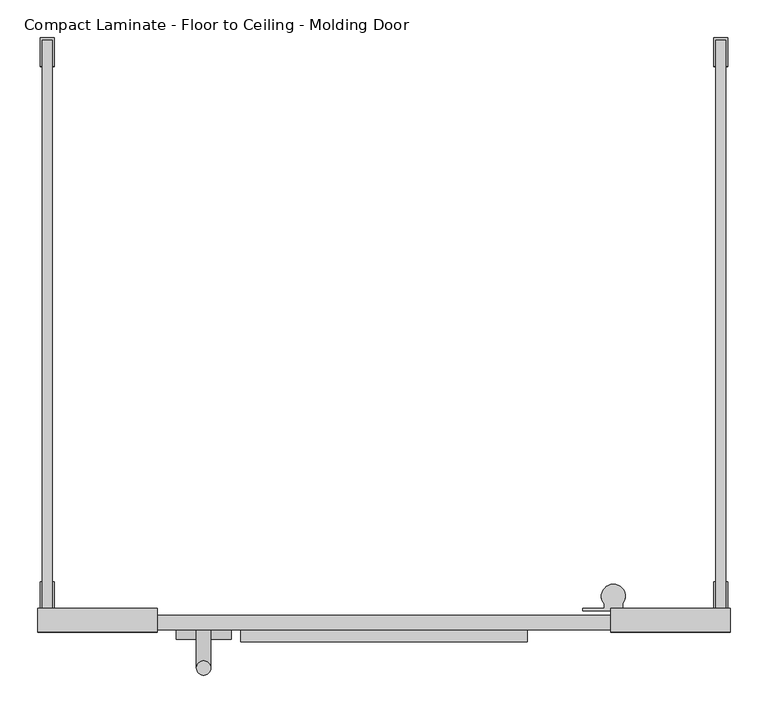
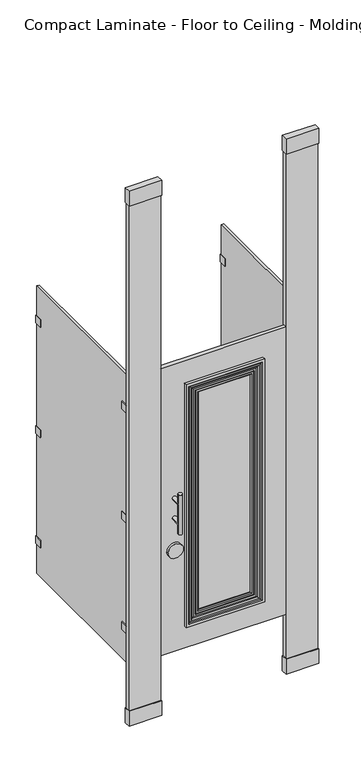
"""IFC4 building model written with IfcOpenShell, lengths in millimetres: proxy geometry, Toilet-Partition_Ironwood-Mfg_Compact-Laminate : Compact Laminate - Floor to Ceiling - Molding Door."""

from ifc_helpers import new_model, si_unit, point, frame, frame_2d, origin, origin_with_axes, place, context, project, spatial, polyline, circle_curve, ellipse_curve, trimmed, segment, composite_curve, outline, extrude, source, transform, mapped, element, save
from ifc_brep_helpers import plane_surface, cylinder_surface, revolved_surface, advanced_brep


def compact_laminate_floor_to_ceiling_molding_door_4631fa89(model_context):
    return source(origin(), model_context, "Body", "SolidModel", [
        extrude(outline(polyline([(542.925, -790.575), (542.925, -758.825), (701.675, -758.825), (701.675, -790.575), (542.925, -790.575)])), frame((0.0, 0.0, 2667.0), z_axis=(0.0, 0.0, 1.0), x_axis=(1.0, 0.0, 0.0)), (0.0, 0.0, 1.0), 76.1999999),
        extrude(outline(polyline([(701.675, -758.825), (701.675, -790.575), (542.925, -790.575), (542.925, -758.825), (701.675, -758.825)])), origin_with_axes(), (0.0, 0.0, 1.0), 76.2),
        extrude(outline(polyline([(698.5, -762.0), (698.5, -787.4), (546.1, -787.4), (546.1, -762.0), (698.5, -762.0)])), origin_with_axes(), (0.0, 0.0, 1.0), 2667.0),
        extrude(outline(polyline([(-60.325, -790.575), (-219.075, -790.575), (-219.075, -758.825), (-60.325, -758.825), (-60.325, -790.575)])), frame((0.0, 0.0, 2667.0), z_axis=(0.0, 0.0, 1.0), x_axis=(1.0, 0.0, 0.0)), (0.0, 0.0, 1.0), 76.1999999),
        extrude(outline(polyline([(-219.075, -758.825), (-60.325, -758.825), (-60.325, -790.575), (-219.075, -790.575), (-219.075, -758.825)])), origin_with_axes(), (0.0, 0.0, 1.0), 76.2),
        extrude(outline(polyline([(-215.9, -762.0), (-63.5, -762.0), (-63.5, -787.4), (-215.9, -787.4), (-215.9, -762.0)])), origin_with_axes(), (0.0, 0.0, 1.0), 2667.0),
        extrude(outline(polyline([(546.1, -787.4), (-63.5, -787.4), (-63.5, -768.35), (546.1, -768.35), (546.1, -787.4)])), frame((0.0, 0.0, 304.8), z_axis=(0.0, 0.0, 1.0), x_axis=(1.0, 0.0, 0.0)), (0.0, 0.0, 1.0), 1473.2),
        extrude(outline(composite_curve([segment(trimmed(circle_curve(frame_2d((827.0875, 1.5875)), 36.5125), [point((827.0875, -34.925))], [point((827.0875, 38.1))], False, "CARTESIAN"), True, "CONTINUOUS"), segment(trimmed(circle_curve(frame_2d((827.0875, 1.5875)), 36.5125), [point((827.0875, 38.1))], [point((827.0875, -34.925))], False, "CARTESIAN"), True, "CONTINUOUS")], self_intersect=False)), frame((0.0, -800.1, 0.0), z_axis=(0.0, 1.0, 0.0), x_axis=(0.0, 0.0, 1.0)), (0.0, 0.0, 1.0), 12.7),
        advanced_brep(
        [(-7.9375, -787.4, 1092.2), (11.1125, -787.4, 1092.2), (-7.9375, -787.4, 990.6), (11.1125, -787.4, 990.6), (11.1125, -838.2, 1092.2), (-7.9375, -838.2, 1092.2), (11.1125, -838.2, 990.6), (-7.9375, -838.2, 990.6), (-7.9375, -838.2, 1143.0), (11.1125, -838.2, 1143.0), (-7.9375, -838.2, 939.8), (11.1125, -838.2, 939.8)],
        [
            (0, 1, circle_curve(frame((1.5875, -787.4, 1092.2), z_axis=(0.0, 1.0, 0.0), x_axis=(1.0, 0.0, 0.0)), 9.525)),
            (1, 0, circle_curve(frame((1.5875, -787.4, 1092.2), z_axis=(0.0, 1.0, 0.0), x_axis=(1.0, 0.0, 0.0)), 9.525)),
            (2, 3, circle_curve(frame((1.5875, -787.4, 990.6), z_axis=(0.0, 1.0, 0.0), x_axis=(1.0, 0.0, 0.0)), 9.525)),
            (3, 2, circle_curve(frame((1.5875, -787.4, 990.6), z_axis=(0.0, 1.0, 0.0), x_axis=(1.0, 0.0, 0.0)), 9.525)),
            (1, 4),
            (4, 5, ellipse_curve(frame((1.5875, -838.2, 1092.2), z_axis=(0.0, 0.7071067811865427, 0.7071067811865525), x_axis=(0.0, -0.7071067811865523, 0.7071067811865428)), 13.4703842, 9.525)),
            (5, 0),
            (5, 4, ellipse_curve(frame((1.5875, -838.2, 1092.2), z_axis=(0.0, 0.7071067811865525, -0.7071067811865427), x_axis=(0.0, -0.7071067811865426, -0.7071067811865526)), 13.4703842, 9.525)),
            (3, 6),
            (6, 7, ellipse_curve(frame((1.5875, -838.2, 990.6), z_axis=(0.0, 0.7071067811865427, 0.7071067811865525), x_axis=(0.0, -0.7071067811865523, 0.7071067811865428)), 13.4703842, 9.525)),
            (7, 2),
            (7, 6, ellipse_curve(frame((1.5875, -838.2, 990.6), z_axis=(0.0, 0.7071067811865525, -0.7071067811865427), x_axis=(0.0, -0.7071067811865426, -0.7071067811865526)), 13.4703842, 9.525)),
            (8, 9, circle_curve(frame((1.5875, -838.2, 1143.0), z_axis=(0.0, 0.0, 1.0), x_axis=(1.0, 0.0, 0.0)), 9.525)),
            (9, 8, circle_curve(frame((1.5875, -838.2, 1143.0), z_axis=(0.0, 0.0, 1.0), x_axis=(1.0, 0.0, 0.0)), 9.525)),
            (10, 11, circle_curve(frame((1.5875, -838.2, 939.8), z_axis=(0.0, 0.0, -1.0), x_axis=(1.0, 0.0, 0.0)), 9.525)),
            (11, 10, circle_curve(frame((1.5875, -838.2, 939.8), z_axis=(0.0, 0.0, -1.0), x_axis=(1.0, 0.0, 0.0)), 9.525)),
            (8, 5),
            (5, 7),
            (7, 10),
            (11, 6),
            (6, 4),
            (4, 9),
        ],
        [
            plane_surface(frame((11.1125, -787.4, 1092.2), z_axis=(0.0, 1.0, 0.0), x_axis=(0.0, 0.0, -1.0))),
            cylinder_surface(frame((1.5875, -787.4, 1092.2), z_axis=(0.0, -1.0, 0.0), x_axis=(1.0, 0.0, 0.0)), 9.525),
            cylinder_surface(frame((1.5875, -787.4, 990.6), z_axis=(0.0, -1.0, 0.0), x_axis=(1.0, 0.0, 0.0)), 9.525),
            plane_surface(frame((11.1125, -838.2, 1143.0), z_axis=(0.0, 0.0, 1.0), x_axis=(0.0, 1.0, 0.0))),
            plane_surface(frame((11.1125, -838.2, 939.8), z_axis=(0.0, 0.0, -1.0), x_axis=(0.0, -1.0, 0.0))),
            cylinder_surface(frame((1.5875, -838.2, 939.8), z_axis=(0.0, 0.0, 1.0), x_axis=(1.0, 0.0, 0.0)), 9.525),
        ],
        [
            (0, [[1, 2]]),
            (0, [[3, 4]]),
            (1, [[-2, 5, 6, 7]]),
            (1, [[-1, -7, 8, -5]]),
            (2, [[-4, 9, 10, 11]]),
            (2, [[-3, -11, 12, -9]]),
            (3, [[13, 14]]),
            (4, [[15, 16]]),
            (5, [[-13, 17, 18, 19, -16, 20, 21, 22]]),
            (5, [[-14, -22, -8, -17]]),
            (5, [[-15, -19, -10, -20]]),
            (5, [[-18, -6, -21, -12]]),
        ],
    ),
        advanced_brep(
        [(414.5195881, -788.6573117, 1646.4195881), (415.7768998, -787.4, 1647.6768998), (415.7768998, -787.4, 435.1231002), (414.5195881, -788.6573117, 436.3804119), (382.8493103, -787.3167663, 1614.7493103), (384.1898558, -788.6573117, 1616.0898558), (384.1898558, -788.6573117, 466.7101442), (382.8493103, -787.3167663, 468.0506897), (368.3, -792.3903203, 1600.2), (368.3, -787.3167663, 1600.2), (368.3, -787.3167663, 482.6), (368.3, -792.3903203, 482.6), (371.8761431, -795.8339988, 1603.7761431), (371.8761431, -795.8339988, 479.0238569), (383.7857899, -797.3276278, 1615.6857899), (381.5195942, -795.8339988, 1613.4195942), (381.5195942, -795.8339988, 469.3804058), (383.7857899, -797.3276278, 467.1142101), (399.1420677, -798.1943603, 1631.0420677), (393.8806616, -797.3276278, 1625.7806616), (393.8806616, -797.3276278, 457.0193384), (399.1420677, -798.1943603, 451.7579323), (406.241729, -800.7784257, 1638.141729), (406.241729, -800.7784257, 444.658271), (415.3065117, -800.469399, 1647.2065117), (415.3065117, -800.469399, 435.5934883), (419.1, -803.275, 1651.0), (419.1, -803.275, 431.8), (431.8, -787.4, 1663.7), (431.8, -803.275, 1663.7), (431.8, -803.275, 419.1), (431.8, -787.4, 419.1), (66.8231002, -787.4, 435.1231002), (68.0804119, -788.6573117, 436.3804119), (98.4101442, -788.6573117, 466.7101442), (99.7506897, -787.3167663, 468.0506897), (114.3, -787.3167663, 482.6), (114.3, -792.3903203, 482.6), (110.7238569, -795.8339988, 479.0238569), (101.0804058, -795.8339988, 469.3804058), (98.8142101, -797.3276278, 467.1142101), (88.7193384, -797.3276278, 457.0193384), (83.4579323, -798.1943603, 451.7579323), (76.358271, -800.7784257, 444.658271), (67.2934883, -800.469399, 435.5934883), (63.5, -803.275, 431.8), (50.8, -803.275, 419.1), (50.8, -787.4, 419.1), (66.8231002, -787.4, 1647.6768998), (68.0804119, -788.6573117, 1646.4195881), (98.4101442, -788.6573117, 1616.0898558), (99.7506897, -787.3167663, 1614.7493103), (114.3, -787.3167663, 1600.2), (114.3, -792.3903203, 1600.2), (110.7238569, -795.8339988, 1603.7761431), (101.0804058, -795.8339988, 1613.4195942), (98.8142101, -797.3276278, 1615.6857899), (88.7193384, -797.3276278, 1625.7806616), (83.4579323, -798.1943603, 1631.0420677), (76.358271, -800.7784257, 1638.141729), (67.2934883, -800.469399, 1647.2065117), (63.5, -803.275, 1651.0), (50.8, -803.275, 1663.7), (50.8, -787.4, 1663.7)],
        [
            (0, 1),
            (1, 2),
            (2, 3),
            (3, 0),
            (4, 5),
            (5, 6),
            (6, 7),
            (7, 4),
            (8, 9),
            (9, 10),
            (10, 11),
            (11, 8),
            (12, 8, ellipse_curve(frame((371.8761431, -792.2553079, 1603.7761431), z_axis=(0.7071067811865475, 0.0, -0.7071067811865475), x_axis=(0.7071067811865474, 0.0, 0.7071067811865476)), 5.0610331, 3.5786908)),
            (11, 13, ellipse_curve(frame((371.8761431, -792.2553079, 479.0238569), z_axis=(0.7071067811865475, 0.0, 0.7071067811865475), x_axis=(-0.7071067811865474, 0.0, 0.7071067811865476)), 5.0610331, 3.5786908)),
            (13, 12),
            (14, 15, ellipse_curve(frame((383.7857899, -794.8616303, 1615.6857899), z_axis=(0.7071067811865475, 0.0, -0.7071067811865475), x_axis=(0.7071067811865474, 0.0, 0.7071067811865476)), 3.487447, 2.4659974)),
            (15, 16),
            (16, 17, ellipse_curve(frame((383.7857899, -794.8616303, 467.1142101), z_axis=(0.7071067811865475, 0.0, 0.7071067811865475), x_axis=(-0.7071067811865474, 0.0, 0.7071067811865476)), 3.487447, 2.4659974)),
            (17, 14),
            (18, 19, ellipse_curve(frame((394.2058089, -811.7566197, 1626.1058089), z_axis=(-0.7071067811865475, 0.0, 0.7071067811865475), x_axis=(-0.7071067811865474, 0.0, -0.7071067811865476)), 20.4108564, 14.432655)),
            (19, 20),
            (20, 21, ellipse_curve(frame((394.2058089, -811.7566197, 456.6941911), z_axis=(-0.7071067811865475, 0.0, -0.7071067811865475), x_axis=(0.7071067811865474, 0.0, -0.7071067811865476)), 20.4108564, 14.432655)),
            (21, 18),
            (22, 18),
            (21, 23),
            (23, 22),
            (24, 22, ellipse_curve(frame((410.3907719, -789.379024, 1642.2907719), z_axis=(0.7071067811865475, 0.0, -0.7071067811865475), x_axis=(0.7071067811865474, 0.0, 0.7071067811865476)), 17.1558104, 12.1309899)),
            (23, 25, ellipse_curve(frame((410.3907719, -789.379024, 440.5092281), z_axis=(0.7071067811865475, 0.0, 0.7071067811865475), x_axis=(-0.7071067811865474, 0.0, 0.7071067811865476)), 17.1558104, 12.1309899)),
            (25, 24),
            (26, 24, ellipse_curve(frame((419.1, -799.307588, 1651.0), z_axis=(0.7071067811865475, 0.0, -0.7071067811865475), x_axis=(0.7071067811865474, 0.0, 0.7071067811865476)), 5.6107679, 3.967412)),
            (25, 27, ellipse_curve(frame((419.1, -799.307588, 431.8), z_axis=(0.7071067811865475, 0.0, 0.7071067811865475), x_axis=(-0.7071067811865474, 0.0, 0.7071067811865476)), 5.6107679, 3.967412)),
            (27, 26),
            (28, 29),
            (29, 30),
            (30, 31),
            (31, 28),
            (2, 32),
            (32, 33),
            (33, 3),
            (6, 34),
            (34, 35),
            (35, 7),
            (10, 36),
            (36, 37),
            (37, 11),
            (37, 38, ellipse_curve(frame((110.7238569, -792.2553079, 479.0238569), z_axis=(0.7071067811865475, 0.0, -0.7071067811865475), x_axis=(0.7071067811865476, 0.0, 0.7071067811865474)), 5.0610331, 3.5786908)),
            (38, 13),
            (16, 39),
            (39, 40, ellipse_curve(frame((98.8142101, -794.8616303, 467.1142101), z_axis=(0.7071067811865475, 0.0, -0.7071067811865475), x_axis=(0.7071067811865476, 0.0, 0.7071067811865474)), 3.487447, 2.4659974)),
            (40, 17),
            (20, 41),
            (41, 42, ellipse_curve(frame((88.3941911, -811.7566197, 456.6941911), z_axis=(-0.7071067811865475, 0.0, 0.7071067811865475), x_axis=(-0.7071067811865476, 0.0, -0.7071067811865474)), 20.4108564, 14.432655)),
            (42, 21),
            (42, 43),
            (43, 23),
            (43, 44, ellipse_curve(frame((72.2092281, -789.379024, 440.5092281), z_axis=(0.7071067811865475, 0.0, -0.7071067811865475), x_axis=(0.7071067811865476, 0.0, 0.7071067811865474)), 17.1558104, 12.1309899)),
            (44, 25),
            (44, 45, ellipse_curve(frame((63.5, -799.307588, 431.8), z_axis=(0.7071067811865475, 0.0, -0.7071067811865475), x_axis=(0.7071067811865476, 0.0, 0.7071067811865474)), 5.6107679, 3.967412)),
            (45, 27),
            (30, 46),
            (46, 47),
            (47, 31),
            (32, 48),
            (48, 49),
            (49, 33),
            (34, 50),
            (50, 51),
            (51, 35),
            (36, 52),
            (52, 53),
            (53, 37),
            (53, 54, ellipse_curve(frame((110.7238569, -792.2553079, 1603.7761431), z_axis=(-0.7071067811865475, 0.0, -0.7071067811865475), x_axis=(0.7071067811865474, 0.0, -0.7071067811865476)), 5.0610331, 3.5786908)),
            (54, 38),
            (39, 55),
            (55, 56, ellipse_curve(frame((98.8142101, -794.8616303, 1615.6857899), z_axis=(-0.7071067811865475, 0.0, -0.7071067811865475), x_axis=(0.7071067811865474, 0.0, -0.7071067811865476)), 3.487447, 2.4659974)),
            (56, 40),
            (41, 57),
            (57, 58, ellipse_curve(frame((88.3941911, -811.7566197, 1626.1058089), z_axis=(0.7071067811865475, 0.0, 0.7071067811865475), x_axis=(-0.7071067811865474, 0.0, 0.7071067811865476)), 20.4108564, 14.432655)),
            (58, 42),
            (58, 59),
            (59, 43),
            (59, 60, ellipse_curve(frame((72.2092281, -789.379024, 1642.2907719), z_axis=(-0.7071067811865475, 0.0, -0.7071067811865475), x_axis=(0.7071067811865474, 0.0, -0.7071067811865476)), 17.1558104, 12.1309899)),
            (60, 44),
            (60, 61, ellipse_curve(frame((63.5, -799.307588, 1651.0), z_axis=(-0.7071067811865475, 0.0, -0.7071067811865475), x_axis=(0.7071067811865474, 0.0, -0.7071067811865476)), 5.6107679, 3.967412)),
            (61, 45),
            (46, 62),
            (62, 63),
            (63, 47),
            (63, 28),
            (1, 48),
            (0, 49),
            (5, 50),
            (4, 51),
            (9, 52),
            (8, 53),
            (12, 54),
            (15, 55),
            (14, 56),
            (19, 57),
            (18, 58),
            (22, 59),
            (24, 60),
            (26, 61),
            (29, 62),
        ],
        [
            plane_surface(frame((415.7768998, -787.4, 1647.6768998), z_axis=(-0.7071067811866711, 0.7071067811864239, 0.0), x_axis=(0.0, 0.0, -1.0))),
            plane_surface(frame((384.1898558, -788.6573117, 1616.0898558), z_axis=(0.7071067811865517, 0.7071067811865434, 0.0), x_axis=(0.0, 0.0, -1.0))),
            plane_surface(frame((368.3, -787.3167663, 1600.2), z_axis=(-1.0, 0.0, 0.0), x_axis=(0.0, 0.0, -1.0))),
            cylinder_surface(frame((371.8761431, -792.2553079, 1663.7), z_axis=(0.0, 0.0, 1.0), x_axis=(1.0, 0.0, 0.0)), 3.5786908),
            cylinder_surface(frame((383.7857899, -794.8616303, 1663.7), z_axis=(0.0, 0.0, 1.0), x_axis=(1.0, 0.0, 0.0)), 2.4659974),
            revolved_surface(polyline([(408.63846390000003, -811.7566197, 442.2615361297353), (408.63846390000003, -811.7566197, 1640.5384638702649)]), (394.2058089, -811.7566197, 1663.7), (0.0, 0.0, -1.0)),
            plane_surface(frame((399.1420677, -798.1943603, 1631.0420677), z_axis=(-0.34202014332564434, -0.9396926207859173, 0.0), x_axis=(0.0, 0.0, -1.0))),
            cylinder_surface(frame((410.3907719, -789.379024, 1663.7), z_axis=(0.0, 0.0, 1.0), x_axis=(1.0, 0.0, 0.0)), 12.1309899),
            cylinder_surface(frame((419.1, -799.307588, 1663.7), z_axis=(0.0, 0.0, 1.0), x_axis=(1.0, 0.0, 0.0)), 3.967412),
            plane_surface(frame((431.8, -803.275, 1663.7), z_axis=(1.0, 0.0, 0.0), x_axis=(0.0, 0.0, -1.0))),
            plane_surface(frame((415.7768998, -787.4, 435.1231002), z_axis=(0.0, 0.7071067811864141, 0.7071067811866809), x_axis=(-1.0, 0.0, 0.0))),
            plane_surface(frame((384.1898558, -788.6573117, 466.7101442), z_axis=(0.0, 0.7071067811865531, -0.7071067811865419), x_axis=(-1.0, 0.0, 0.0))),
            plane_surface(frame((368.3, -787.3167663, 482.6), z_axis=(0.0, 0.0, 1.0), x_axis=(-1.0, 0.0, 0.0))),
            cylinder_surface(frame((431.8, -792.2553079, 479.0238569), z_axis=(1.0, 0.0, 0.0), x_axis=(0.0, 0.0, -1.0)), 3.5786908),
            cylinder_surface(frame((431.8, -794.8616303, 467.1142101), z_axis=(1.0, 0.0, 0.0), x_axis=(0.0, 0.0, -1.0)), 2.4659974),
            revolved_surface(polyline([(73.96153612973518, -811.7566197, 442.2615361), (408.63846387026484, -811.7566197, 442.2615361)]), (431.8, -811.7566197, 456.6941911), (-1.0, 0.0, 0.0)),
            plane_surface(frame((399.1420677, -798.1943603, 451.7579323), z_axis=(0.0, -0.9396926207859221, 0.34202014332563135), x_axis=(-1.0, 0.0, 0.0))),
            cylinder_surface(frame((431.8, -789.379024, 440.5092281), z_axis=(1.0, 0.0, 0.0), x_axis=(0.0, 0.0, -1.0)), 12.1309899),
            cylinder_surface(frame((431.8, -799.307588, 431.8), z_axis=(1.0, 0.0, 0.0), x_axis=(0.0, 0.0, -1.0)), 3.967412),
            plane_surface(frame((431.8, -803.275, 419.1), z_axis=(0.0, 0.0, -1.0), x_axis=(-1.0, 0.0, 0.0))),
            plane_surface(frame((66.8231002, -787.4, 435.1231002), z_axis=(0.7071067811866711, 0.7071067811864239, 0.0), x_axis=(0.0, 0.0, 1.0))),
            plane_surface(frame((98.4101442, -788.6573117, 466.7101442), z_axis=(-0.7071067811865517, 0.7071067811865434, 0.0), x_axis=(0.0, 0.0, 1.0))),
            plane_surface(frame((114.3, -787.3167663, 482.6), z_axis=(1.0, 0.0, 0.0), x_axis=(0.0, 0.0, 1.0))),
            cylinder_surface(frame((110.7238569, -792.2553079, 419.1), z_axis=(0.0, 0.0, -1.0), x_axis=(-1.0, 0.0, 0.0)), 3.5786908),
            cylinder_surface(frame((98.8142101, -794.8616303, 419.1), z_axis=(0.0, 0.0, -1.0), x_axis=(-1.0, 0.0, 0.0)), 2.4659974),
            revolved_surface(polyline([(73.9615361, -811.7566197, 1640.5384638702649), (73.9615361, -811.7566197, 442.2615361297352)]), (88.3941911, -811.7566197, 419.1), (0.0, 0.0, 1.0)),
            plane_surface(frame((83.4579323, -798.1943603, 451.7579323), z_axis=(0.34202014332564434, -0.9396926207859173, 0.0), x_axis=(0.0, 0.0, 1.0))),
            cylinder_surface(frame((72.2092281, -789.379024, 419.1), z_axis=(0.0, 0.0, -1.0), x_axis=(-1.0, 0.0, 0.0)), 12.1309899),
            cylinder_surface(frame((63.5, -799.307588, 419.1), z_axis=(0.0, 0.0, -1.0), x_axis=(-1.0, 0.0, 0.0)), 3.967412),
            plane_surface(frame((50.8, -803.275, 419.1), z_axis=(-1.0, 0.0, 0.0), x_axis=(0.0, 0.0, 1.0))),
            plane_surface(frame((50.8, -787.4, 1663.7), z_axis=(0.0, 1.0, 0.0), x_axis=(1.0, 0.0, 0.0))),
            plane_surface(frame((66.8231002, -787.4, 1647.6768998), z_axis=(0.0, 0.7071067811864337, -0.7071067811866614), x_axis=(1.0, 0.0, 0.0))),
            plane_surface(frame((68.0804119, -788.6573117, 1646.4195881), z_axis=(0.0, 1.0, 0.0), x_axis=(1.0, 0.0, 0.0))),
            plane_surface(frame((98.4101442, -788.6573117, 1616.0898558), z_axis=(0.0, 0.7071067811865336, 0.7071067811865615), x_axis=(1.0, 0.0, 0.0))),
            plane_surface(frame((99.7506897, -787.3167663, 1614.7493103), z_axis=(0.0, 1.0, 0.0), x_axis=(1.0, 0.0, 0.0))),
            plane_surface(frame((114.3, -787.3167663, 1600.2), z_axis=(0.0, 0.0, -1.0), x_axis=(1.0, 0.0, 0.0))),
            cylinder_surface(frame((50.8, -792.2553079, 1603.7761431), z_axis=(-1.0, 0.0, 0.0), x_axis=(0.0, 0.0, 1.0)), 3.5786908),
            plane_surface(frame((110.7238569, -795.8339988, 1603.7761431), z_axis=(0.0, -1.0, 0.0), x_axis=(1.0, 0.0, 0.0))),
            cylinder_surface(frame((50.8, -794.8616303, 1615.6857899), z_axis=(-1.0, 0.0, 0.0), x_axis=(0.0, 0.0, 1.0)), 2.4659974),
            plane_surface(frame((98.8142101, -797.3276278, 1615.6857899), z_axis=(0.0, -1.0, 0.0), x_axis=(1.0, 0.0, 0.0))),
            revolved_surface(polyline([(408.63846387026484, -811.7566197, 1640.5384639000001), (73.96153612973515, -811.7566197, 1640.5384639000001)]), (50.8, -811.7566197, 1626.1058089), (1.0, 0.0, 0.0)),
            plane_surface(frame((83.4579323, -798.1943603, 1631.0420677), z_axis=(0.0, -0.9396926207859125, -0.34202014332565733), x_axis=(1.0, 0.0, 0.0))),
            cylinder_surface(frame((50.8, -789.379024, 1642.2907719), z_axis=(-1.0, 0.0, 0.0), x_axis=(0.0, 0.0, 1.0)), 12.1309899),
            cylinder_surface(frame((50.8, -799.307588, 1651.0), z_axis=(-1.0, 0.0, 0.0), x_axis=(0.0, 0.0, 1.0)), 3.967412),
            plane_surface(frame((63.5, -803.275, 1651.0), z_axis=(0.0, -1.0, 0.0), x_axis=(1.0, 0.0, 0.0))),
            plane_surface(frame((50.8, -803.275, 1663.7), z_axis=(0.0, 0.0, 1.0), x_axis=(1.0, 0.0, 0.0))),
        ],
        [
            (0, [[1, 2, 3, 4]]),
            (1, [[5, 6, 7, 8]]),
            (2, [[9, 10, 11, 12]]),
            (3, [[13, -12, 14, 15]]),
            (4, [[16, 17, 18, 19]]),
            (5, [[20, 21, 22, 23]]),
            (6, [[24, -23, 25, 26]]),
            (7, [[27, -26, 28, 29]]),
            (8, [[30, -29, 31, 32]]),
            (9, [[33, 34, 35, 36]]),
            (10, [[-3, 37, 38, 39]]),
            (11, [[-7, 40, 41, 42]]),
            (12, [[-11, 43, 44, 45]]),
            (13, [[-14, -45, 46, 47]]),
            (14, [[-18, 48, 49, 50]]),
            (15, [[-22, 51, 52, 53]]),
            (16, [[-25, -53, 54, 55]]),
            (17, [[-28, -55, 56, 57]]),
            (18, [[-31, -57, 58, 59]]),
            (19, [[-35, 60, 61, 62]]),
            (20, [[-38, 63, 64, 65]]),
            (21, [[-41, 66, 67, 68]]),
            (22, [[-44, 69, 70, 71]]),
            (23, [[-46, -71, 72, 73]]),
            (24, [[-49, 74, 75, 76]]),
            (25, [[-52, 77, 78, 79]]),
            (26, [[-54, -79, 80, 81]]),
            (27, [[-56, -81, 82, 83]]),
            (28, [[-58, -83, 84, 85]]),
            (29, [[-61, 86, 87, 88]]),
            (30, [[-62, -88, 89, -36], [90, -63, -37, -2]]),
            (31, [[-64, -90, -1, 91]]),
            (32, [[-39, -65, -91, -4], [92, -66, -40, -6]]),
            (33, [[-67, -92, -5, 93]]),
            (34, [[-42, -68, -93, -8], [94, -69, -43, -10]]),
            (35, [[-70, -94, -9, 95]]),
            (36, [[-72, -95, -13, 96]]),
            (37, [[97, -74, -48, -17], [-47, -73, -96, -15]]),
            (38, [[-75, -97, -16, 98]]),
            (39, [[99, -77, -51, -21], [-50, -76, -98, -19]]),
            (40, [[-78, -99, -20, 100]]),
            (41, [[-80, -100, -24, 101]]),
            (42, [[-82, -101, -27, 102]]),
            (43, [[-84, -102, -30, 103]]),
            (44, [[104, -86, -60, -34], [-59, -85, -103, -32]]),
            (45, [[-87, -104, -33, -89]]),
        ],
    ),
        extrude(outline(composite_curve([segment(polyline([(581.3737081, -762.0), (505.1737081, -762.0), (505.1737081, -758.825), (533.7487081, -758.825), (533.7487081, -752.9581331)]), True, "CONTINUOUS"), segment(trimmed(circle_curve(frame_2d((546.1, -742.8902139)), 15.9347861), [point((533.7487081, -752.9581331))], [point((558.4512919, -752.9581331))], False, "CARTESIAN"), True, "CONTINUOUS"), segment(polyline([(558.4512919, -752.9581331), (558.4512919, -758.825), (581.3737081, -758.825), (581.3737081, -762.0)]), True, "CONTINUOUS")], self_intersect=False)), frame((0.0, 0.0, 1574.8), z_axis=(0.0, 0.0, 1.0), x_axis=(1.0, 0.0, 0.0)), (0.0, 0.0, 1.0), 63.5),
        extrude(outline(composite_curve([segment(polyline([(581.3737081, -762.0), (505.1737081, -762.0), (505.1737081, -758.825), (533.7487081, -758.825), (533.7487081, -752.9581331)]), True, "CONTINUOUS"), segment(trimmed(circle_curve(frame_2d((546.1, -742.8902139)), 15.9347861), [point((533.7487081, -752.9581331))], [point((558.4512919, -752.9581331))], False, "CARTESIAN"), True, "CONTINUOUS"), segment(polyline([(558.4512919, -752.9581331), (558.4512919, -758.825), (581.3737081, -758.825), (581.3737081, -762.0)]), True, "CONTINUOUS")], self_intersect=False)), frame((0.0, 0.0, 1009.6500001), z_axis=(0.0, 0.0, 1.0), x_axis=(1.0, 0.0, 0.0)), (0.0, 0.0, 1.0), 63.5),
        extrude(outline(composite_curve([segment(polyline([(581.3737081, -762.0), (505.1737081, -762.0), (505.1737081, -758.825), (533.7487081, -758.825), (533.7487081, -752.9581331)]), True, "CONTINUOUS"), segment(trimmed(circle_curve(frame_2d((546.1, -742.8902139)), 15.9347861), [point((533.7487081, -752.9581331))], [point((558.4512919, -752.9581331))], False, "CARTESIAN"), True, "CONTINUOUS"), segment(polyline([(558.4512919, -752.9581331), (558.4512919, -758.825), (581.3737081, -758.825), (581.3737081, -762.0)]), True, "CONTINUOUS")], self_intersect=False)), frame((0.0, 0.0, 444.5), z_axis=(0.0, 0.0, 1.0), x_axis=(1.0, 0.0, 0.0)), (0.0, 0.0, 1.0), 63.5),
        extrude(outline(polyline([(682.498, -723.9), (682.498, -758.825), (695.198, -758.825), (695.198, -723.9), (698.373, -723.9), (698.373, -762.0), (679.323, -762.0), (679.323, -723.9), (682.498, -723.9)])), frame((0.0, 0.0, 1587.8188137), z_axis=(0.0, 0.0, 1.0), x_axis=(1.0, 0.0, 0.0)), (0.0, 0.0, 1.0), 38.1),
        extrude(outline(polyline([(682.498, -38.1), (679.323, -38.1), (679.323, 0.0), (698.373, 0.0), (698.373, -38.1), (695.198, -38.1), (695.198, -3.175), (682.498, -3.175), (682.498, -38.1)])), frame((0.0, 0.0, 1587.8188137), z_axis=(0.0, 0.0, 1.0), x_axis=(1.0, 0.0, 0.0)), (0.0, 0.0, 1.0), 38.1),
        extrude(outline(polyline([(682.498, -723.9), (682.498, -758.825), (695.198, -758.825), (695.198, -723.9), (698.373, -723.9), (698.373, -762.0), (679.323, -762.0), (679.323, -723.9), (682.498, -723.9)])), frame((0.0, 0.0, 1022.35), z_axis=(0.0, 0.0, 1.0), x_axis=(1.0, 0.0, 0.0)), (0.0, 0.0, 1.0), 38.1),
        extrude(outline(polyline([(682.498, -38.1), (679.323, -38.1), (679.323, 0.0), (698.373, 0.0), (698.373, -38.1), (695.198, -38.1), (695.198, -3.175), (682.498, -3.175), (682.498, -38.1)])), frame((0.0, 0.0, 1022.35), z_axis=(0.0, 0.0, 1.0), x_axis=(1.0, 0.0, 0.0)), (0.0, 0.0, 1.0), 38.1),
        extrude(outline(polyline([(682.498, -723.9), (682.498, -758.825), (695.198, -758.825), (695.198, -723.9), (698.373, -723.9), (698.373, -762.0), (679.323, -762.0), (679.323, -723.9), (682.498, -723.9)])), frame((0.0, 0.0, 457.2), z_axis=(0.0, 0.0, 1.0), x_axis=(1.0, 0.0, 0.0)), (0.0, 0.0, 1.0), 38.1),
        extrude(outline(polyline([(682.498, -38.1), (679.323, -38.1), (679.323, 0.0), (698.373, 0.0), (698.373, -38.1), (695.198, -38.1), (695.198, -3.175), (682.498, -3.175), (682.498, -38.1)])), frame((0.0, 0.0, 457.2), z_axis=(0.0, 0.0, 1.0), x_axis=(1.0, 0.0, 0.0)), (0.0, 0.0, 1.0), 38.1),
        extrude(outline(polyline([(-212.598, -723.9), (-212.598, -758.825), (-199.898, -758.825), (-199.898, -723.9), (-196.723, -723.9), (-196.723, -762.0), (-215.773, -762.0), (-215.773, -723.9), (-212.598, -723.9)])), frame((0.0, 0.0, 1587.8188137), z_axis=(0.0, 0.0, 1.0), x_axis=(1.0, 0.0, 0.0)), (0.0, 0.0, 1.0), 38.1),
        extrude(outline(polyline([(-212.598, -38.1), (-215.773, -38.1), (-215.773, 0.0), (-196.723, 0.0), (-196.723, -38.1), (-199.898, -38.1), (-199.898, -3.175), (-212.598, -3.175), (-212.598, -38.1)])), frame((0.0, 0.0, 1587.8188137), z_axis=(0.0, 0.0, 1.0), x_axis=(1.0, 0.0, 0.0)), (0.0, 0.0, 1.0), 38.1),
        extrude(outline(polyline([(-212.598, -723.9), (-212.598, -758.825), (-199.898, -758.825), (-199.898, -723.9), (-196.723, -723.9), (-196.723, -762.0), (-215.773, -762.0), (-215.773, -723.9), (-212.598, -723.9)])), frame((0.0, 0.0, 1022.35), z_axis=(0.0, 0.0, 1.0), x_axis=(1.0, 0.0, 0.0)), (0.0, 0.0, 1.0), 38.1),
        extrude(outline(polyline([(-212.598, -38.1), (-215.773, -38.1), (-215.773, 0.0), (-196.723, 0.0), (-196.723, -38.1), (-199.898, -38.1), (-199.898, -3.175), (-212.598, -3.175), (-212.598, -38.1)])), frame((0.0, 0.0, 1022.35), z_axis=(0.0, 0.0, 1.0), x_axis=(1.0, 0.0, 0.0)), (0.0, 0.0, 1.0), 38.1),
        extrude(outline(polyline([(-212.598, -723.9), (-212.598, -758.825), (-199.898, -758.825), (-199.898, -723.9), (-196.723, -723.9), (-196.723, -762.0), (-215.773, -762.0), (-215.773, -723.9), (-212.598, -723.9)])), frame((0.0, 0.0, 457.2), z_axis=(0.0, 0.0, 1.0), x_axis=(1.0, 0.0, 0.0)), (0.0, 0.0, 1.0), 38.1),
        extrude(outline(polyline([(-212.598, -38.1), (-215.773, -38.1), (-215.773, 0.0), (-196.723, 0.0), (-196.723, -38.1), (-199.898, -38.1), (-199.898, -3.175), (-212.598, -3.175), (-212.598, -38.1)])), frame((0.0, 0.0, 457.2), z_axis=(0.0, 0.0, 1.0), x_axis=(1.0, 0.0, 0.0)), (0.0, 0.0, 1.0), 38.1),
        extrude(outline(polyline([(-199.898, -3.175), (-199.898, -758.825), (-212.598, -758.825), (-212.598, -3.175), (-199.898, -3.175)])), frame((0.0, 0.0, 304.8), z_axis=(0.0, 0.0, 1.0), x_axis=(1.0, 0.0, 0.0)), (0.0, 0.0, 1.0), 1473.2),
        extrude(outline(polyline([(695.198, -3.175), (695.198, -758.825), (682.498, -758.825), (682.498, -3.175), (695.198, -3.175)])), frame((0.0, 0.0, 304.8), z_axis=(0.0, 0.0, 1.0), x_axis=(1.0, 0.0, 0.0)), (0.0, 0.0, 1.0), 1473.2),
    ])


if __name__ == "__main__":
    model = new_model("IFC4")
    model_context = context("Model", 3, world=origin())
    ifc_project = project(units=[si_unit("LENGTHUNIT", "METRE", prefix="MILLI")], contexts=[model_context])
    site = spatial("IfcSite", under=ifc_project)
    building = spatial("IfcBuilding", under=site)
    placement = place(None, origin())
    compact_laminate_floor_to_ceiling_molding_door_shape = compact_laminate_floor_to_ceiling_molding_door_4631fa89(model_context)
    element("IfcBuildingElementProxy", 1, Name="Toilet-Partition_Ironwood-Mfg_Compact-Laminate : Compact Laminate - Floor to Ceiling - Molding Door", ObjectType="Toilet-Partition_Ironwood-Mfg_Compact-Laminate : Compact Laminate - Floor to Ceiling - Molding Door", at=placement, inside=building, context=model_context, shape_type="MappedRepresentation", body=[
        mapped(compact_laminate_floor_to_ceiling_molding_door_shape, transform((0.0, 0.0, 0.0), x_axis=(1.0, 0.0, 0.0), y_axis=(0.0, 1.0, 0.0), z_axis=(0.0, 0.0, 1.0))),
    ])
    save(model, "model.ifc")
